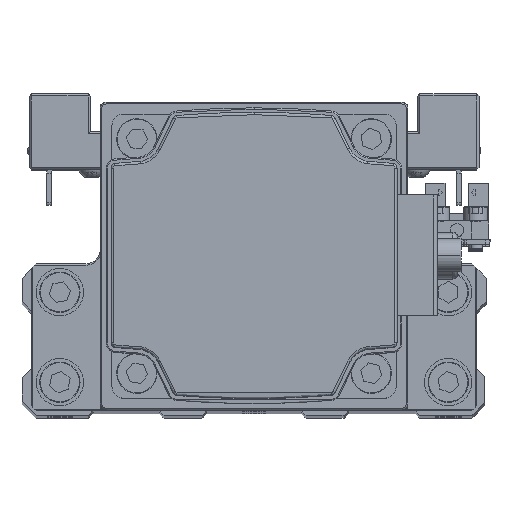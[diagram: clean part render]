
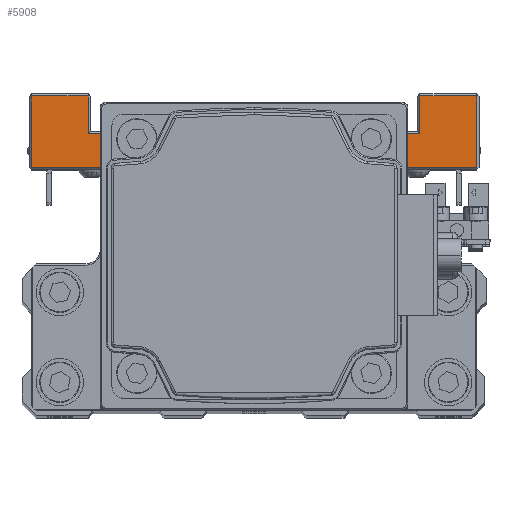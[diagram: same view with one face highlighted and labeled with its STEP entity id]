
A CAD part, top view. The second image highlights one B-rep face of the part: STEP entity #5908.
In plain terms, the highlighted planar face has unit normal (0, 0, 1) as drawn and (1, 0, 0) by its records, which use the part's own axes.
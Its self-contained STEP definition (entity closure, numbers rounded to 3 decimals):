
#654 = CARTESIAN_POINT ( 'NONE',  ( 47., 7.5, -35. ) ) ;
#970 = DIRECTION ( 'NONE',  ( 0., 0., 1. ) ) ;
#984 = EDGE_CURVE ( 'NONE', #16767, #31433, #25984, .T. ) ;
#1643 = DIRECTION ( 'NONE',  ( 0., 0., -1. ) ) ;
#1677 = CARTESIAN_POINT ( 'NONE',  ( 47., 7.5, 35. ) ) ;
#2397 = EDGE_CURVE ( 'NONE', #16441, #18339, #16714, .T. ) ;
#2668 = EDGE_CURVE ( 'NONE', #28603, #16767, #33125, .T. ) ;
#2873 = LINE ( 'NONE', #14989, #31341 ) ;
#3274 = EDGE_LOOP ( 'NONE', ( #5729, #17663, #3861, #28405, #24927, #37597, #29609, #20393, #5498, #13573, #28514, #30913 ) ) ;
#3861 = ORIENTED_EDGE ( 'NONE', *, *, #984, .T. ) ;
#4726 = VERTEX_POINT ( 'NONE', #23908 ) ;
#5498 = ORIENTED_EDGE ( 'NONE', *, *, #11668, .T. ) ;
#5729 = ORIENTED_EDGE ( 'NONE', *, *, #23077, .F. ) ;
#5908 = ADVANCED_FACE ( 'NONE', ( #37660 ), #10489, .F. ) ;
#5951 = CARTESIAN_POINT ( 'NONE',  ( 47., 8., -47. ) ) ;
#6955 = CARTESIAN_POINT ( 'NONE',  ( 47., 7.5, 47. ) ) ;
#6986 = EDGE_CURVE ( 'NONE', #24368, #4726, #27839, .T. ) ;
#7176 = EDGE_CURVE ( 'NONE', #37873, #13158, #38094, .T. ) ;
#7522 = DIRECTION ( 'NONE',  ( 0., 0., 1. ) ) ;
#10403 = CARTESIAN_POINT ( 'NONE',  ( 47., 15., 35. ) ) ;
#10489 = PLANE ( 'NONE',  #12902 ) ;
#10505 = DIRECTION ( 'NONE',  ( 0., 0., 1. ) ) ;
#10707 = VECTOR ( 'NONE', #970, 1000. ) ;
#10810 = EDGE_CURVE ( 'NONE', #22772, #12819, #28851, .T. ) ;
#10884 = DIRECTION ( 'NONE',  ( 0., 1., 0. ) ) ;
#10915 = CARTESIAN_POINT ( 'NONE',  ( 47., -7.5, -20. ) ) ;
#11322 = CARTESIAN_POINT ( 'NONE',  ( 47., 8., 20. ) ) ;
#11637 = CARTESIAN_POINT ( 'NONE',  ( 47., 23., -35. ) ) ;
#11668 = EDGE_CURVE ( 'NONE', #24967, #16441, #34126, .T. ) ;
#11787 = VECTOR ( 'NONE', #19039, 1000. ) ;
#12369 = LINE ( 'NONE', #24475, #29879 ) ;
#12735 = DIRECTION ( 'NONE',  ( 0., -1., 0. ) ) ;
#12819 = VERTEX_POINT ( 'NONE', #27610 ) ;
#12902 = AXIS2_PLACEMENT_3D ( 'NONE', #22584, #34692, #7522 ) ;
#12978 = EDGE_CURVE ( 'NONE', #4726, #22772, #25579, .T. ) ;
#13158 = VERTEX_POINT ( 'NONE', #17637 ) ;
#13573 = ORIENTED_EDGE ( 'NONE', *, *, #2397, .T. ) ;
#13770 = DIRECTION ( 'NONE',  ( 0., 1., 0. ) ) ;
#14680 = LINE ( 'NONE', #26779, #34445 ) ;
#14989 = CARTESIAN_POINT ( 'NONE',  ( 47., 23., -20. ) ) ;
#16053 = LINE ( 'NONE', #28152, #10707 ) ;
#16441 = VERTEX_POINT ( 'NONE', #34398 ) ;
#16714 = LINE ( 'NONE', #28815, #28076 ) ;
#16767 = VERTEX_POINT ( 'NONE', #30991 ) ;
#17637 = CARTESIAN_POINT ( 'NONE',  ( 47., -7.5, -20. ) ) ;
#17663 = ORIENTED_EDGE ( 'NONE', *, *, #2668, .T. ) ;
#18040 = DIRECTION ( 'NONE',  ( 0., 0., -1. ) ) ;
#18052 = VECTOR ( 'NONE', #23008, 1000. ) ;
#18339 = VERTEX_POINT ( 'NONE', #11322 ) ;
#19039 = DIRECTION ( 'NONE',  ( 0., -1., 0. ) ) ;
#20393 = ORIENTED_EDGE ( 'NONE', *, *, #37905, .T. ) ;
#22047 = CARTESIAN_POINT ( 'NONE',  ( 47., 23., 47. ) ) ;
#22584 = CARTESIAN_POINT ( 'NONE',  ( 47., 7.5, -20. ) ) ;
#22772 = VERTEX_POINT ( 'NONE', #10403 ) ;
#23008 = DIRECTION ( 'NONE',  ( 0., 0., -1. ) ) ;
#23077 = EDGE_CURVE ( 'NONE', #28603, #13158, #12369, .T. ) ;
#23908 = CARTESIAN_POINT ( 'NONE',  ( 47., 15., -35. ) ) ;
#24368 = VERTEX_POINT ( 'NONE', #11637 ) ;
#24475 = CARTESIAN_POINT ( 'NONE',  ( 47., 7.5, -20. ) ) ;
#24927 = ORIENTED_EDGE ( 'NONE', *, *, #6986, .T. ) ;
#24967 = VERTEX_POINT ( 'NONE', #22047 ) ;
#25579 = LINE ( 'NONE', #37679, #25801 ) ;
#25639 = VECTOR ( 'NONE', #12735, 1000. ) ;
#25801 = VECTOR ( 'NONE', #10505, 1000. ) ;
#25984 = LINE ( 'NONE', #38066, #34526 ) ;
#26188 = EDGE_CURVE ( 'NONE', #31433, #24368, #2873, .T. ) ;
#26779 = CARTESIAN_POINT ( 'NONE',  ( 47., 7.5, 20. ) ) ;
#26952 = VECTOR ( 'NONE', #13770, 1000. ) ;
#27088 = DIRECTION ( 'NONE',  ( 0., 0., 1. ) ) ;
#27610 = CARTESIAN_POINT ( 'NONE',  ( 47., 23., 35. ) ) ;
#27839 = LINE ( 'NONE', #654, #25639 ) ;
#27965 = CARTESIAN_POINT ( 'NONE',  ( 47., -7.5, 20. ) ) ;
#28076 = VECTOR ( 'NONE', #1643, 1000. ) ;
#28152 = CARTESIAN_POINT ( 'NONE',  ( 47., 23., -20. ) ) ;
#28405 = ORIENTED_EDGE ( 'NONE', *, *, #26188, .T. ) ;
#28514 = ORIENTED_EDGE ( 'NONE', *, *, #32679, .T. ) ;
#28603 = VERTEX_POINT ( 'NONE', #31913 ) ;
#28815 = CARTESIAN_POINT ( 'NONE',  ( 47., 8., 20. ) ) ;
#28851 = LINE ( 'NONE', #1677, #26952 ) ;
#29609 = ORIENTED_EDGE ( 'NONE', *, *, #10810, .T. ) ;
#29879 = VECTOR ( 'NONE', #36583, 1000. ) ;
#30156 = CARTESIAN_POINT ( 'NONE',  ( 47., 23., -47. ) ) ;
#30913 = ORIENTED_EDGE ( 'NONE', *, *, #7176, .T. ) ;
#30991 = CARTESIAN_POINT ( 'NONE',  ( 47., 8., -47. ) ) ;
#31341 = VECTOR ( 'NONE', #27088, 1000. ) ;
#31433 = VERTEX_POINT ( 'NONE', #30156 ) ;
#31913 = CARTESIAN_POINT ( 'NONE',  ( 47., 8., -20. ) ) ;
#32679 = EDGE_CURVE ( 'NONE', #18339, #37873, #14680, .T. ) ;
#33125 = LINE ( 'NONE', #5951, #36957 ) ;
#34126 = LINE ( 'NONE', #6955, #11787 ) ;
#34398 = CARTESIAN_POINT ( 'NONE',  ( 47., 8., 47. ) ) ;
#34445 = VECTOR ( 'NONE', #38864, 1000. ) ;
#34526 = VECTOR ( 'NONE', #10884, 1000. ) ;
#34692 = DIRECTION ( 'NONE',  ( -1., 0., 0. ) ) ;
#36583 = DIRECTION ( 'NONE',  ( 0., -1., 0. ) ) ;
#36957 = VECTOR ( 'NONE', #18040, 1000. ) ;
#37597 = ORIENTED_EDGE ( 'NONE', *, *, #12978, .T. ) ;
#37660 = FACE_OUTER_BOUND ( 'NONE', #3274, .T. ) ;
#37679 = CARTESIAN_POINT ( 'NONE',  ( 47., 15., -20. ) ) ;
#37873 = VERTEX_POINT ( 'NONE', #27965 ) ;
#37905 = EDGE_CURVE ( 'NONE', #12819, #24967, #16053, .T. ) ;
#38066 = CARTESIAN_POINT ( 'NONE',  ( 47., 7.5, -47. ) ) ;
#38094 = LINE ( 'NONE', #10915, #18052 ) ;
#38864 = DIRECTION ( 'NONE',  ( 0., -1., 0. ) ) ;
